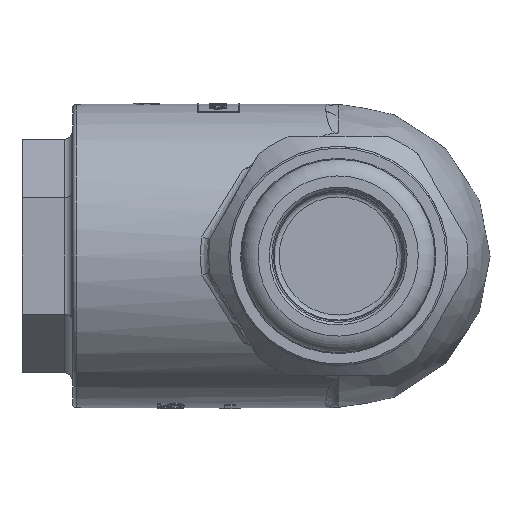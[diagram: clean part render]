
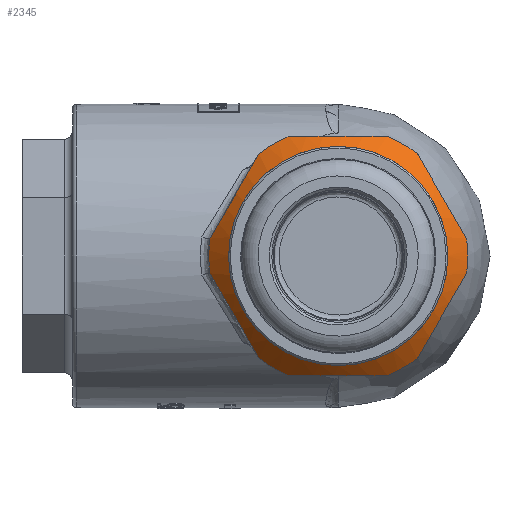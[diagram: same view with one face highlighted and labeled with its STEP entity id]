
A CAD part, left-side view. The second image highlights one B-rep face of the part: STEP entity #2345.
In plain terms, the highlighted conical face has half-angle 45 degrees and reference radius 14.175 mm.
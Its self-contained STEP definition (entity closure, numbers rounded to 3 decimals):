
#776=CARTESIAN_POINT('',(-59.5,-13.,0.0));
#777=VERTEX_POINT('',#776);
#778=CARTESIAN_POINT('',(-59.5,0.,0.0));
#779=DIRECTION('',(-1.0,0.0,0.0));
#780=DIRECTION('',(0.0,-1.0,0.0));
#781=AXIS2_PLACEMENT_3D('',#778,#779,#780);
#782=CIRCLE('',#781,13.);
#783=EDGE_CURVE('',#777,#777,#782,.T.);
#2086=CARTESIAN_POINT('',(-57.15,9.383,-12.148));
#2087=VERTEX_POINT('',#2086);
#2095=CARTESIAN_POINT('',(-57.15,5.829,-14.2));
#2096=VERTEX_POINT('',#2095);
#2103=CARTESIAN_POINT('',(-57.15,0.,0.0));
#2104=DIRECTION('',(-1.0,0.0,0.0));
#2105=DIRECTION('',(0.0,-1.0,0.0));
#2106=AXIS2_PLACEMENT_3D('',#2103,#2104,#2105);
#2107=CIRCLE('',#2106,15.35);
#2108=EDGE_CURVE('',#2087,#2096,#2107,.T.);
#2118=CARTESIAN_POINT('',(-57.15,-5.829,-14.2));
#2119=VERTEX_POINT('',#2118);
#2127=CARTESIAN_POINT('',(-57.15,-9.383,-12.148));
#2128=VERTEX_POINT('',#2127);
#2135=CARTESIAN_POINT('',(-57.15,0.,0.0));
#2136=DIRECTION('',(-1.0,0.0,0.0));
#2137=DIRECTION('',(0.0,-1.0,0.0));
#2138=AXIS2_PLACEMENT_3D('',#2135,#2136,#2137);
#2139=CIRCLE('',#2138,15.35);
#2140=EDGE_CURVE('',#2119,#2128,#2139,.T.);
#2150=CARTESIAN_POINT('',(-57.15,-15.212,-2.052));
#2151=VERTEX_POINT('',#2150);
#2159=CARTESIAN_POINT('',(-57.15,-15.212,2.052));
#2160=VERTEX_POINT('',#2159);
#2167=CARTESIAN_POINT('',(-57.15,0.,0.0));
#2168=DIRECTION('',(-1.0,0.0,0.0));
#2169=DIRECTION('',(0.0,-1.0,0.0));
#2170=AXIS2_PLACEMENT_3D('',#2167,#2168,#2169);
#2171=CIRCLE('',#2170,15.35);
#2172=EDGE_CURVE('',#2151,#2160,#2171,.T.);
#2182=CARTESIAN_POINT('',(-57.15,-9.383,12.148));
#2183=VERTEX_POINT('',#2182);
#2191=CARTESIAN_POINT('',(-57.15,-5.829,14.2));
#2192=VERTEX_POINT('',#2191);
#2199=CARTESIAN_POINT('',(-57.15,0.,0.0));
#2200=DIRECTION('',(-1.0,0.0,0.0));
#2201=DIRECTION('',(0.0,-1.0,0.0));
#2202=AXIS2_PLACEMENT_3D('',#2199,#2200,#2201);
#2203=CIRCLE('',#2202,15.35);
#2204=EDGE_CURVE('',#2183,#2192,#2203,.T.);
#2214=CARTESIAN_POINT('',(-57.15,5.829,14.2));
#2215=VERTEX_POINT('',#2214);
#2223=CARTESIAN_POINT('',(-57.15,9.383,12.148));
#2224=VERTEX_POINT('',#2223);
#2231=CARTESIAN_POINT('',(-57.15,0.,0.0));
#2232=DIRECTION('',(-1.0,0.0,0.0));
#2233=DIRECTION('',(0.0,-1.0,0.0));
#2234=AXIS2_PLACEMENT_3D('',#2231,#2232,#2233);
#2235=CIRCLE('',#2234,15.35);
#2236=EDGE_CURVE('',#2215,#2224,#2235,.T.);
#2241=CARTESIAN_POINT('',(-58.325,0.,0.0));
#2242=DIRECTION('',(1.0,0.,0.0));
#2243=DIRECTION('',(0.0,-1.0,0.0));
#2244=AXIS2_PLACEMENT_3D('',#2241,#2242,#2243);
#2245=CONICAL_SURFACE('',#2244,14.175,45.);
#2246=CARTESIAN_POINT('',(-57.15,15.212,-2.052));
#2247=VERTEX_POINT('',#2246);
#2248=CARTESIAN_POINT('',(-57.15,15.212,-2.052));
#2249=CARTESIAN_POINT('',(-59.364,12.298,-7.1));
#2250=CARTESIAN_POINT('',(-57.15,9.383,-12.148));
#2258=(BOUNDED_CURVE()B_SPLINE_CURVE(2,(#2248,#2249,#2250),.UNSPECIFIED.,.F.,.U.)B_SPLINE_CURVE_WITH_KNOTS((3,3),(0.0,1.188),.UNSPECIFIED.)CURVE()GEOMETRIC_REPRESENTATION_ITEM()RATIONAL_B_SPLINE_CURVE((1.0,1.081,1.0))REPRESENTATION_ITEM(''));
#2259=EDGE_CURVE('',#2247,#2087,#2258,.T.);
#2260=ORIENTED_EDGE('',*,*,#2259,.T.);
#2261=ORIENTED_EDGE('',*,*,#2108,.T.);
#2262=CARTESIAN_POINT('',(-57.15,5.829,-14.2));
#2263=CARTESIAN_POINT('',(-59.364,0.,-14.2));
#2264=CARTESIAN_POINT('',(-57.15,-5.829,-14.2));
#2272=(BOUNDED_CURVE()B_SPLINE_CURVE(2,(#2262,#2263,#2264),.UNSPECIFIED.,.F.,.U.)B_SPLINE_CURVE_WITH_KNOTS((3,3),(0.0,1.188),.UNSPECIFIED.)CURVE()GEOMETRIC_REPRESENTATION_ITEM()RATIONAL_B_SPLINE_CURVE((1.0,1.081,1.0))REPRESENTATION_ITEM(''));
#2273=EDGE_CURVE('',#2096,#2119,#2272,.T.);
#2274=ORIENTED_EDGE('',*,*,#2273,.T.);
#2275=ORIENTED_EDGE('',*,*,#2140,.T.);
#2276=CARTESIAN_POINT('',(-57.15,-9.383,-12.148));
#2277=CARTESIAN_POINT('',(-59.364,-12.298,-7.1));
#2278=CARTESIAN_POINT('',(-57.15,-15.212,-2.052));
#2286=(BOUNDED_CURVE()B_SPLINE_CURVE(2,(#2276,#2277,#2278),.UNSPECIFIED.,.F.,.U.)B_SPLINE_CURVE_WITH_KNOTS((3,3),(0.0,1.188),.UNSPECIFIED.)CURVE()GEOMETRIC_REPRESENTATION_ITEM()RATIONAL_B_SPLINE_CURVE((1.0,1.081,1.0))REPRESENTATION_ITEM(''));
#2287=EDGE_CURVE('',#2128,#2151,#2286,.T.);
#2288=ORIENTED_EDGE('',*,*,#2287,.T.);
#2289=ORIENTED_EDGE('',*,*,#2172,.T.);
#2290=CARTESIAN_POINT('',(-57.15,-15.212,2.052));
#2291=CARTESIAN_POINT('',(-59.364,-12.298,7.1));
#2292=CARTESIAN_POINT('',(-57.15,-9.383,12.148));
#2300=(BOUNDED_CURVE()B_SPLINE_CURVE(2,(#2290,#2291,#2292),.UNSPECIFIED.,.F.,.U.)B_SPLINE_CURVE_WITH_KNOTS((3,3),(0.0,1.188),.UNSPECIFIED.)CURVE()GEOMETRIC_REPRESENTATION_ITEM()RATIONAL_B_SPLINE_CURVE((1.0,1.081,1.0))REPRESENTATION_ITEM(''));
#2301=EDGE_CURVE('',#2160,#2183,#2300,.T.);
#2302=ORIENTED_EDGE('',*,*,#2301,.T.);
#2303=ORIENTED_EDGE('',*,*,#2204,.T.);
#2304=CARTESIAN_POINT('',(-57.15,-5.829,14.2));
#2305=CARTESIAN_POINT('',(-59.364,0.,14.2));
#2306=CARTESIAN_POINT('',(-57.15,5.829,14.2));
#2314=(BOUNDED_CURVE()B_SPLINE_CURVE(2,(#2304,#2305,#2306),.UNSPECIFIED.,.F.,.U.)B_SPLINE_CURVE_WITH_KNOTS((3,3),(0.0,1.188),.UNSPECIFIED.)CURVE()GEOMETRIC_REPRESENTATION_ITEM()RATIONAL_B_SPLINE_CURVE((1.0,1.081,1.0))REPRESENTATION_ITEM(''));
#2315=EDGE_CURVE('',#2192,#2215,#2314,.T.);
#2316=ORIENTED_EDGE('',*,*,#2315,.T.);
#2317=ORIENTED_EDGE('',*,*,#2236,.T.);
#2318=CARTESIAN_POINT('',(-57.15,15.212,2.052));
#2319=VERTEX_POINT('',#2318);
#2320=CARTESIAN_POINT('',(-57.15,9.383,12.148));
#2321=CARTESIAN_POINT('',(-59.364,12.298,7.1));
#2322=CARTESIAN_POINT('',(-57.15,15.212,2.052));
#2330=(BOUNDED_CURVE()B_SPLINE_CURVE(2,(#2320,#2321,#2322),.UNSPECIFIED.,.F.,.U.)B_SPLINE_CURVE_WITH_KNOTS((3,3),(0.0,1.188),.UNSPECIFIED.)CURVE()GEOMETRIC_REPRESENTATION_ITEM()RATIONAL_B_SPLINE_CURVE((1.0,1.081,1.0))REPRESENTATION_ITEM(''));
#2331=EDGE_CURVE('',#2224,#2319,#2330,.T.);
#2332=ORIENTED_EDGE('',*,*,#2331,.T.);
#2333=CARTESIAN_POINT('',(-57.15,0.,0.0));
#2334=DIRECTION('',(-1.0,0.0,0.0));
#2335=DIRECTION('',(0.0,-1.0,0.0));
#2336=AXIS2_PLACEMENT_3D('',#2333,#2334,#2335);
#2337=CIRCLE('',#2336,15.35);
#2338=EDGE_CURVE('',#2319,#2247,#2337,.T.);
#2339=ORIENTED_EDGE('',*,*,#2338,.T.);
#2340=EDGE_LOOP('',(#2260,#2261,#2274,#2275,#2288,#2289,#2302,#2303,#2316,#2317,#2332,#2339));
#2341=FACE_OUTER_BOUND('',#2340,.T.);
#2342=ORIENTED_EDGE('',*,*,#783,.F.);
#2343=EDGE_LOOP('',(#2342));
#2344=FACE_BOUND('',#2343,.T.);
#2345=ADVANCED_FACE('',(#2341,#2344),#2245,.T.);
